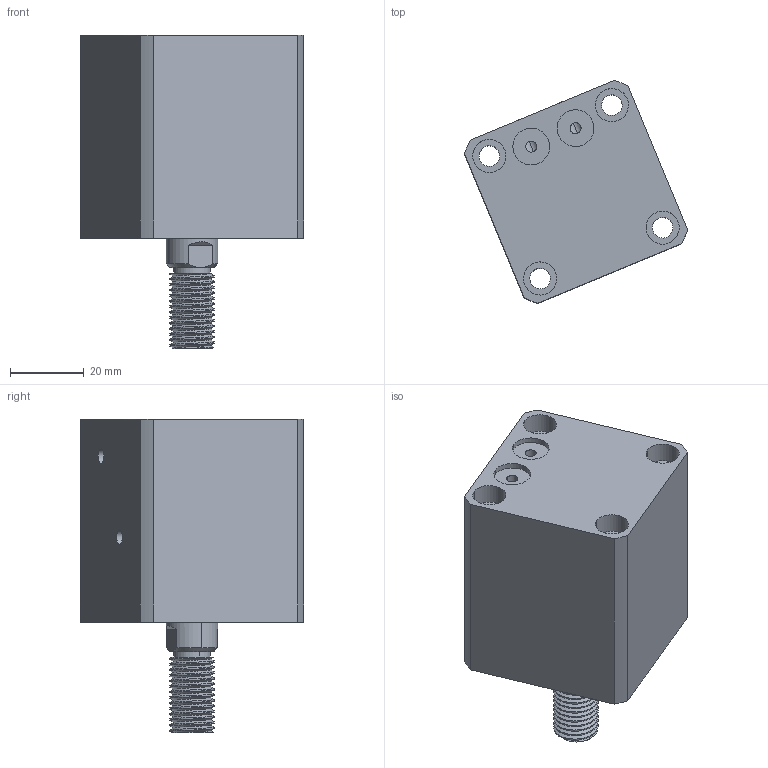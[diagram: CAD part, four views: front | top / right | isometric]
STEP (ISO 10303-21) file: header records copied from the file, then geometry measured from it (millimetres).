
FILE_DESCRIPTION (( 'STEP AP214' ), '1' );
FILE_NAME ('chtb-sdmb25x10w_asm.STEP', '2018-05-24T02:12:18', ( 'Windows' ), ( 'Microsoft' ), 'SwSTEP 2.0', 'SolidWorks 2015', '' );
FILE_SCHEMA (( 'AUTOMOTIVE_DESIGN' ));
Length unit declared in the file: millimetre
Products named in the file (4): CHTB-SDMB25X10WHSG; CHTB-SDMB25X10NBT; CHTB-25QG; chtb-sdmb25x10w_asm
Assembly tree (3 placements, depth 2):
  chtb-sdmb25x10w_asm
    CHTB-25QG
    CHTB-SDMB25X10NBT
    CHTB-SDMB25X10WHSG
Bounding box: 60.55 x 60.55 x 85 mm (x, y, z)
Volume: 117044 mm3; surface area: 34279.2 mm2
Topology: 3 solids, 3 shells, 176 faces, 476 edges, 323 vertices
Faces by surface type: cylinder 118, plane 37, bspline 12, cone 9
Entity records: 10721 total; most frequent: CARTESIAN_POINT 6406, ORIENTED_EDGE 944, DIRECTION 765, EDGE_CURVE 472, VERTEX_POINT 323, AXIS2_PLACEMENT_3D 310, EDGE_LOOP 215, ADVANCED_FACE 176
